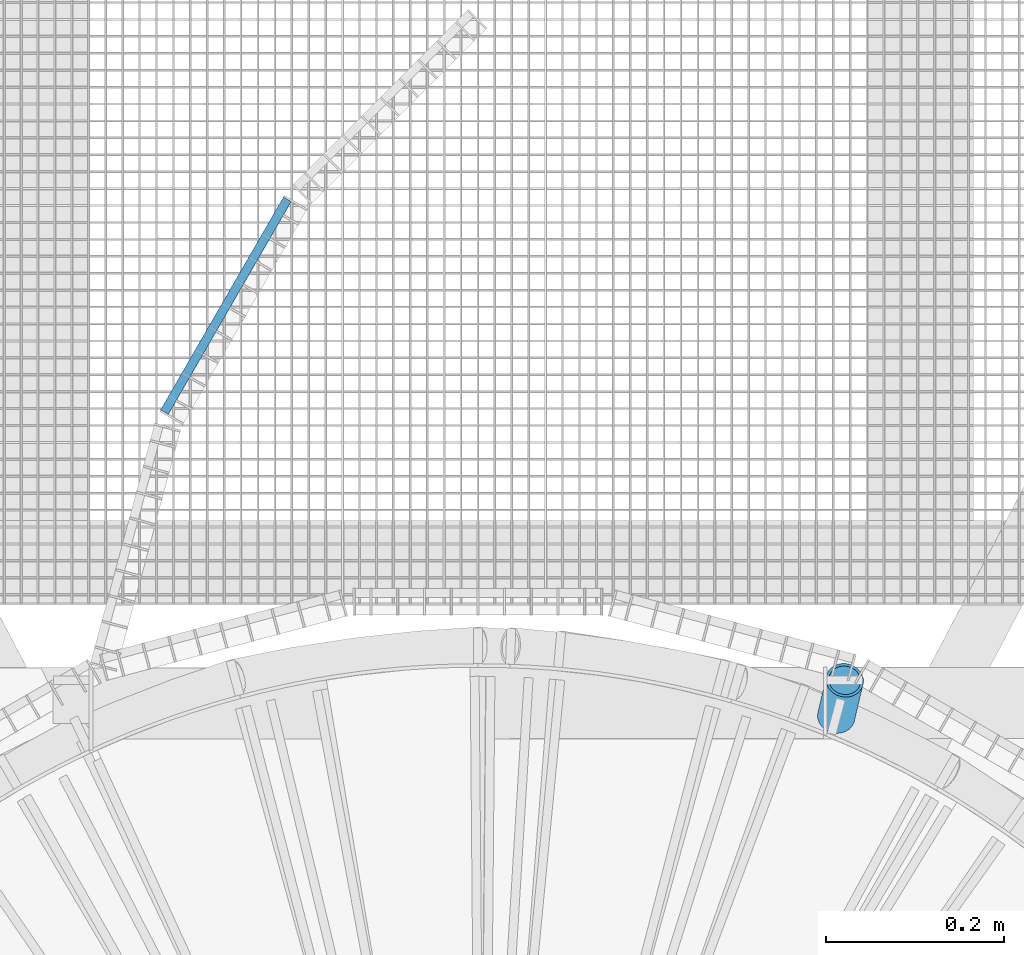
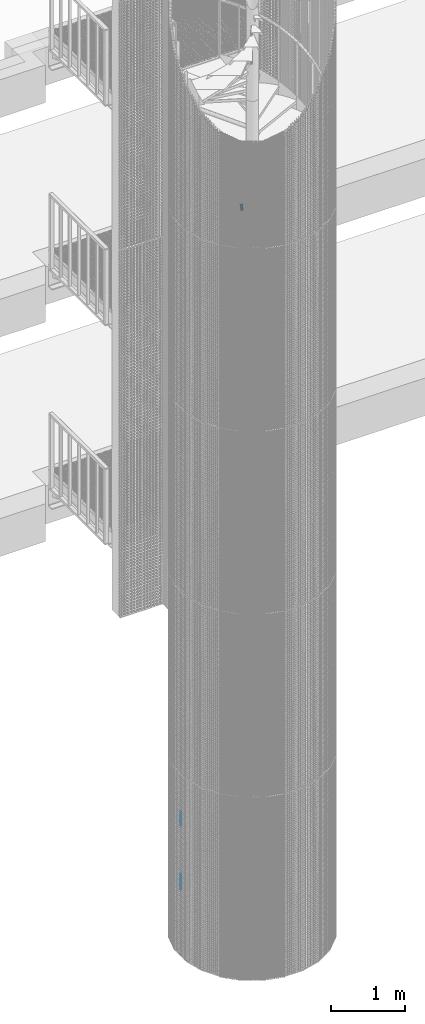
# One storey, part 316 of 1148: 5 beams, 1 member, 2 elements without a shape of their own.
"""IFC2X3 building model written with IfcOpenShell, lengths in millimetres."""

from ifc_helpers import new_model, si_unit, frame, origin_with_axes, origin_2d_with_axis, place, context, subcontext, project, spatial, rectangle, hollow_circle, extrude, material, type_object, element, aggregate, save


model = new_model("IFC2X3")

# Units and contexts
model_context = context("Model", 3, precision=1e-05, world=origin_with_axes())
body_context = subcontext(model_context, "Body", "Model", "MODEL_VIEW")
ifc_project = project(units=[si_unit("LENGTHUNIT", "METRE", prefix="MILLI"), si_unit("AREAUNIT", "SQUARE_METRE"), si_unit("VOLUMEUNIT", "CUBIC_METRE"), si_unit("MASSUNIT", "GRAM", prefix="KILO"), si_unit("TIMEUNIT", "SECOND"), si_unit("PLANEANGLEUNIT", "RADIAN"), si_unit("SOLIDANGLEUNIT", "STERADIAN"), si_unit("THERMODYNAMICTEMPERATUREUNIT", "DEGREE_CELSIUS"), si_unit("LUMINOUSINTENSITYUNIT", "LUMEN")], contexts=[model_context])

# Site, building, storey
site_placement = place(None, origin_with_axes())
site = spatial("IfcSite", under=ifc_project, at=site_placement, Name="Undefined", CompositionType="ELEMENT")
building_placement = place(site_placement, origin_with_axes())
building = spatial("IfcBuilding", under=site, at=building_placement, Name="Undefined", CompositionType="ELEMENT")
storey_placement = place(building_placement, origin_with_axes())
storey = spatial("IfcBuildingStorey", under=building, at=storey_placement, Name="Undefined", CompositionType="ELEMENT", Elevation=0.0)

# Assembly, beams
assembly_1_placement = place(storey_placement, origin_with_axes())
assembly_1 = element("IfcElementAssembly", 1, at=assembly_1_placement, inside=storey, Name="BORDURE", AssemblyPlace="NOTDEFINED", PredefinedType="NOTDEFINED")
ifc_material = material(Name="STEEL/S235JR")
beam_type = type_object("IfcBeamType", Name="PL2*10", PredefinedType="NOTDEFINED")
beam_1_placement = place(assembly_1_placement, frame((-214.029568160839, 1555.52617546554, 1080.0), z_axis=(-0.866025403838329, 0.499999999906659, 0.0), x_axis=(-0.49999999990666, -0.866025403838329, 0.0)))
beam_1 = element("IfcBeam", 2, at=beam_1_placement, type_object=beam_type, material=ifc_material, Name="ENTRETOISE", context=body_context, shape_type="SweptSolid", body=[
    extrude(rectangle(XDim=2.0, YDim=10.0, at=origin_2d_with_axis()), frame((275.999999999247, 9.09494701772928e-13, 1.53210777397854e-14), z_axis=(-1.0, 0.0, 0.0), x_axis=(0.0, -1.0, 0.0)), (0.0, 0.0, 1.0), 276.0),
])
beam_2_placement = place(assembly_1_placement, frame((-214.02956816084, 1555.52617546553, 89.9999999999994), z_axis=(-0.866025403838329, 0.499999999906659, 0.0), x_axis=(-0.49999999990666, -0.866025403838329, 0.0)))
beam_2 = element("IfcBeam", 3, at=beam_2_placement, type_object=beam_type, material=ifc_material, Name="ENTRETOISE", context=body_context, shape_type="SweptSolid", body=[
    extrude(rectangle(XDim=2.0, YDim=10.0, at=origin_2d_with_axis()), frame((275.999999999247, 9.09494701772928e-13, 1.53210777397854e-14), z_axis=(-1.0, 0.0, 0.0), x_axis=(0.0, -1.0, 0.0)), (0.0, 0.0, 1.0), 276.0),
])
beam_3_placement = place(assembly_1_placement, frame((-214.02956816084, 1555.52617546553, 59.9999999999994), z_axis=(-0.866025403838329, 0.499999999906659, 0.0), x_axis=(-0.49999999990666, -0.866025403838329, 0.0)))
beam_3 = element("IfcBeam", 4, at=beam_3_placement, type_object=beam_type, material=ifc_material, Name="ENTRETOISE", context=body_context, shape_type="SweptSolid", body=[
    extrude(rectangle(XDim=2.0, YDim=10.0, at=origin_2d_with_axis()), frame((275.999999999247, 9.09494701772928e-13, 1.53210777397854e-14), z_axis=(-1.0, 0.0, 0.0), x_axis=(0.0, -1.0, 0.0)), (0.0, 0.0, 1.0), 276.0),
])
beam_4_placement = place(assembly_1_placement, frame((-214.029568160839, 1555.52617546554, 1110.0), z_axis=(-0.866025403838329, 0.499999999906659, 0.0), x_axis=(-0.49999999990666, -0.866025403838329, 0.0)))
beam_4 = element("IfcBeam", 5, at=beam_4_placement, type_object=beam_type, material=ifc_material, Name="ENTRETOISE", context=body_context, shape_type="SweptSolid", body=[
    extrude(rectangle(XDim=2.0, YDim=10.0, at=origin_2d_with_axis()), frame((275.999999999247, 9.09494701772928e-13, 1.53210777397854e-14), z_axis=(-1.0, 0.0, 0.0), x_axis=(0.0, -1.0, 0.0)), (0.0, 0.0, 1.0), 276.0),
])
beam_5_placement = place(assembly_1_placement, frame((-214.029568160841, 1555.52617546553, 29.9999999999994), z_axis=(-0.866025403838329, 0.499999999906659, 0.0), x_axis=(-0.49999999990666, -0.866025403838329, 0.0)))
beam_5 = element("IfcBeam", 6, at=beam_5_placement, type_object=beam_type, material=ifc_material, Name="ENTRETOISE", context=body_context, shape_type="SweptSolid", body=[
    extrude(rectangle(XDim=2.0, YDim=10.0, at=origin_2d_with_axis()), frame((275.999999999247, 9.09494701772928e-13, 1.53210777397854e-14), z_axis=(-1.0, 0.0, 0.0), x_axis=(0.0, -1.0, 0.0)), (0.0, 0.0, 1.0), 276.0),
])
aggregate(assembly_1, [beam_1, beam_2, beam_3, beam_4, beam_5])

# Assembly, member
assembly_2_placement = place(storey_placement, origin_with_axes())
assembly_2 = element("IfcElementAssembly", 7, at=assembly_2_placement, inside=storey, Name="MAIN_COURANTE", AssemblyPlace="NOTDEFINED", PredefinedType="NOTDEFINED")
member_type = type_object("IfcMemberType", Name="TUBE-42.4*3.2", PredefinedType="NOTDEFINED")
member_placement = place(assembly_2_placement, frame((402.406753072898, 974.641049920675, 11109.9900000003), z_axis=(0.97362600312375, -0.228149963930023, 1.83943484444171e-10), x_axis=(0.105875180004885, 0.451820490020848, 0.885803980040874)))
member = element("IfcMember", 8, at=member_placement, type_object=member_type, material=ifc_material, Name="MAIN_COURANTE", context=body_context, shape_type="SweptSolid", body=[
    extrude(hollow_circle(Radius=21.200000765, WallThickness=3.200000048, at=origin_2d_with_axis()), frame((90.1440970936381, -1.81898940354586e-12, 3.63795526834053e-12), z_axis=(-1.0, 0.0, 0.0), x_axis=(0.0, -1.0, 0.0)), (0.0, 0.0, 1.0), 90.14),
])
aggregate(assembly_2, [member])

save(model, "model.ifc")
